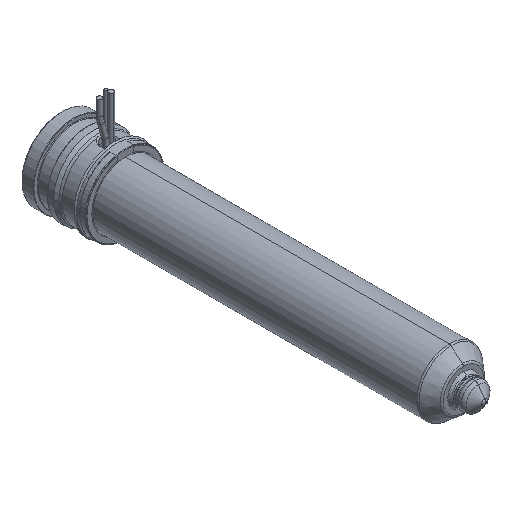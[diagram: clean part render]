
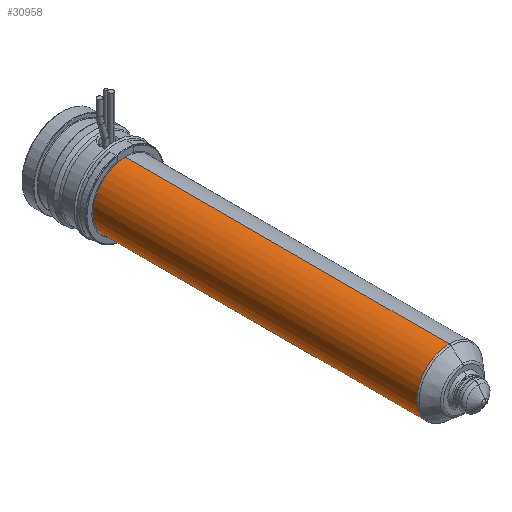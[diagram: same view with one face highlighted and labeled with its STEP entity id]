
A CAD part, isometric view. The second image highlights one B-rep face of the part: STEP entity #30958.
In plain terms, the highlighted cylindrical face has radius 12 mm (diameter 24 mm), a partial arc.
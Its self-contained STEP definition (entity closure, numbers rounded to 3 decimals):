
#30443=CARTESIAN_POINT('',(0.,-24.,0.));
#30444=DIRECTION('',(0.,1.,0.));
#30445=DIRECTION('',(0.,0.,-1.));
#30446=AXIS2_PLACEMENT_3D('',#30443,#30444,#30445);
#30451=DIRECTION('',(0.,1.,0.));
#30452=VECTOR('',#30451,119.736);
#30453=CARTESIAN_POINT('',(0.,-143.736,12.));
#30454=LINE('',#30453,#30452);
#30466=DIRECTION('',(0.,1.,0.));
#30467=VECTOR('',#30466,119.736);
#30468=CARTESIAN_POINT('',(0.,-143.736,-12.));
#30469=LINE('',#30468,#30467);
#30497=CARTESIAN_POINT('',(0.,-143.736,0.));
#30498=DIRECTION('',(0.,-1.,0.));
#30499=DIRECTION('',(0.,0.,1.));
#30500=AXIS2_PLACEMENT_3D('',#30497,#30498,#30499);
#30827=CARTESIAN_POINT('',(0.,-143.736,12.));
#30828=CARTESIAN_POINT('',(0.,-24.,12.));
#30829=VERTEX_POINT('',#30827);
#30830=VERTEX_POINT('',#30828);
#30831=CARTESIAN_POINT('',(0.,-143.736,-12.));
#30832=CARTESIAN_POINT('',(0.,-24.,-12.));
#30833=VERTEX_POINT('',#30831);
#30834=VERTEX_POINT('',#30832);
#30944=CARTESIAN_POINT('',(0.,-13.125,0.));
#30945=DIRECTION('',(0.,-1.,0.));
#30946=DIRECTION('',(0.,0.,1.));
#30947=AXIS2_PLACEMENT_3D('',#30944,#30945,#30946);
#30948=CYLINDRICAL_SURFACE('',#30947,12.);
#30950=ORIENTED_EDGE('',*,*,#30949,.F.);
#30952=ORIENTED_EDGE('',*,*,#30951,.T.);
#30954=ORIENTED_EDGE('',*,*,#30953,.T.);
#30955=ORIENTED_EDGE('',*,*,#30937,.T.);
#30956=EDGE_LOOP('',(#30950,#30952,#30954,#30955));
#30957=FACE_OUTER_BOUND('',#30956,.F.);
#30958=ADVANCED_FACE('',(#30957),#30948,.T.);
#30447=CIRCLE('',#30446,12.);
#30501=CIRCLE('',#30500,12.);
#30937=EDGE_CURVE('',#30834,#30830,#30447,.T.);
#30949=EDGE_CURVE('',#30829,#30830,#30454,.T.);
#30951=EDGE_CURVE('',#30829,#30833,#30501,.T.);
#30953=EDGE_CURVE('',#30833,#30834,#30469,.T.);
